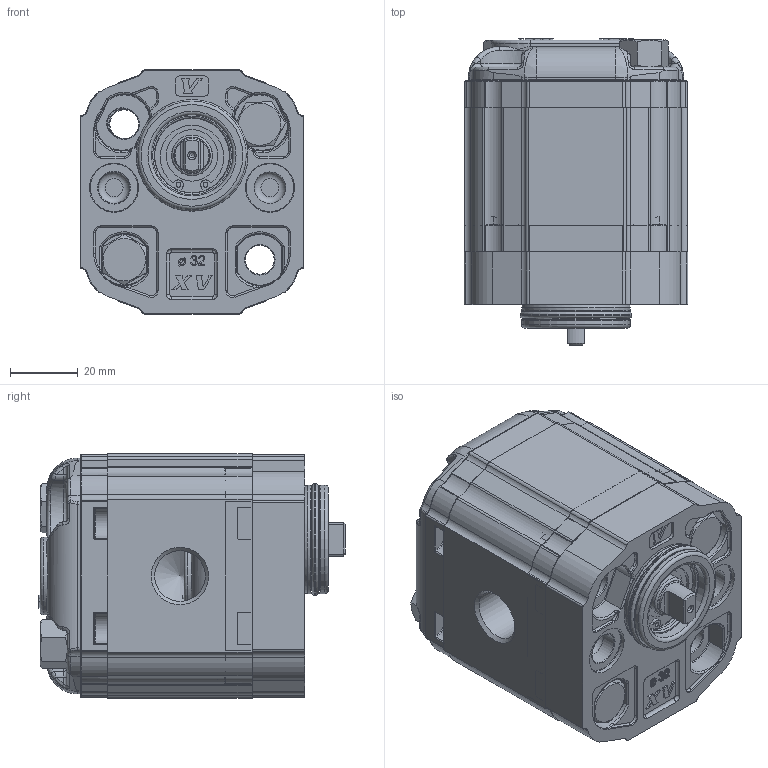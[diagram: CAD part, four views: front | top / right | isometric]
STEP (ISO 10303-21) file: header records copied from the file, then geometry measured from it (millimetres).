
FILE_DESCRIPTION( ( 'Unknown' ), '1' );
FILE_NAME( 'P:/montaggio_easy/output/STP/X1P1752DBBA.stp', 'Unknown', ( 'Unknown' ), ( 'Unknown' ), 'PSStep 14.0', 'Unknown', ' ' );
FILE_SCHEMA( ( 'AUTOMOTIVE_DESIGN { 1 0 10303 214 1 1 1 1 }' ) );
Length unit declared in the file: millimetre
Products named in the file (5): Assem1; X1P52; 1D; X1BBH42,5; XP140-A
Bounding box: 66 x 90.4 x 72 mm (x, y, z)
Surface area: 125027.3 mm2
Topology: 8 solids, 14 shells, 3670 faces, 9258 edges, 5862 vertices
Faces by surface type: plane 1644, cylinder 994, torus 370, extrusion 296, bspline 252, cone 106, sphere 8
Full cylindrical faces by diameter (mm): 1.447 x4, 1.5 x2, 2.5 x2, 3 x12, 8 x8, 8.5 x6, 9 x4, 9.3 x4, 10 x2, 10.5 x4, 11.965 x2, 12 x6, 12.923 x2, 14.5 x4, 14.95 x4, 15.115 x2, 15.181 x2, 19 x2, 20 x2, 22 x4, 22.2 x2, 23 x2, 24 x2, 29.4 x4, 32 x4, 32.96 x2
Entity records: 77114 total; most frequent: CARTESIAN_POINT 19445, ORIENTED_EDGE 8922, DIRECTION 8658, EDGE_CURVE 4461, AXIS2_PLACEMENT_3D 3015, VERTEX_POINT 2886, VECTOR 2628, LINE 2480
